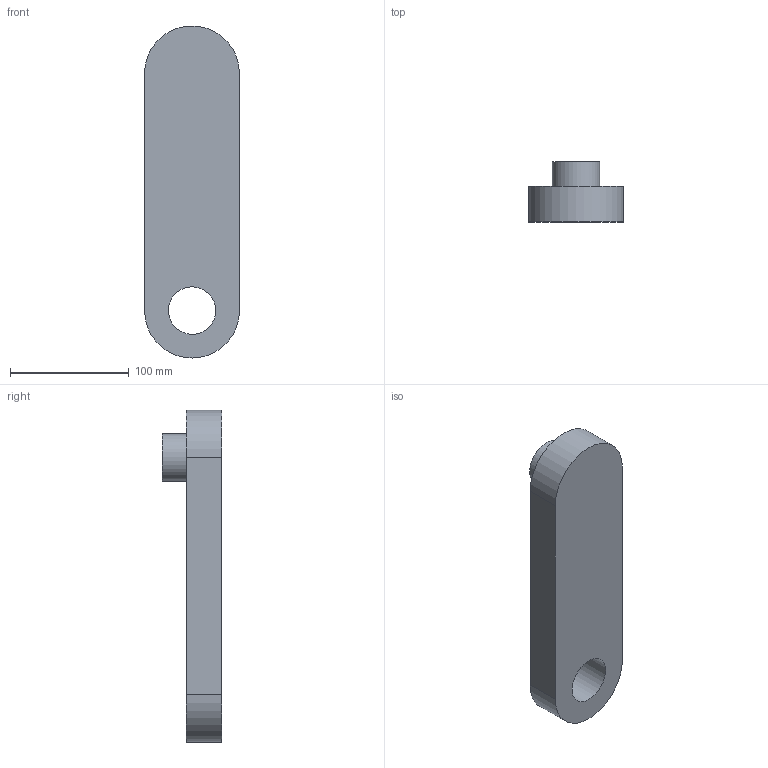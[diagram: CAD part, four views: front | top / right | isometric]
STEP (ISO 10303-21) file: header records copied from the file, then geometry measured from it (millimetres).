
FILE_DESCRIPTION(/* description */ (''),/* implementation_level */ '2;1');
FILE_NAME(/* name */ 'czlon2.step',/* time_stamp */ '2026-02-28T17:10:28+01:00',/* author */ (''),/* organization */ (''),/* preprocessor_version */ 'ST-DEVELOPER v20.1',/* originating_system */ 'Autodesk Translation Framework v14.24.0.0',/* authorisation */ '');
FILE_SCHEMA (('AUTOMOTIVE_DESIGN { 1 0 10303 214 3 1 1 }'));
Length unit declared in the file: millimetre
Products named in the file (1): czlon2
Bounding box: 80.08 x 50.5 x 280 mm (x, y, z)
Volume: 618858.4 mm3; surface area: 65425.7 mm2
Topology: 1 solids, 1 shells, 9 faces, 18 edges, 12 vertices
Faces by surface type: plane 5, cylinder 4
Full cylindrical faces by diameter (mm): 40 x2
Entity records: 277 total; most frequent: DIRECTION 46, CARTESIAN_POINT 40, ORIENTED_EDGE 36, EDGE_CURVE 18, AXIS2_PLACEMENT_3D 18, EDGE_LOOP 12, VERTEX_POINT 12, LINE 10
